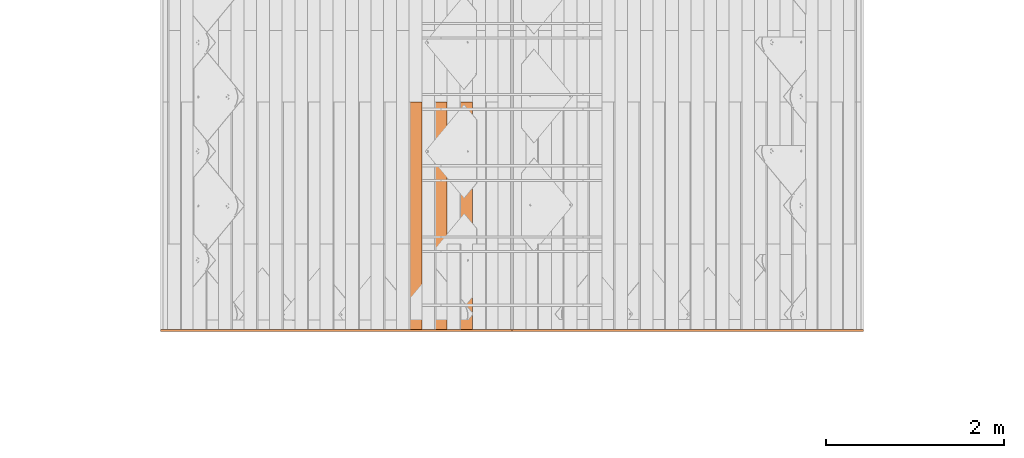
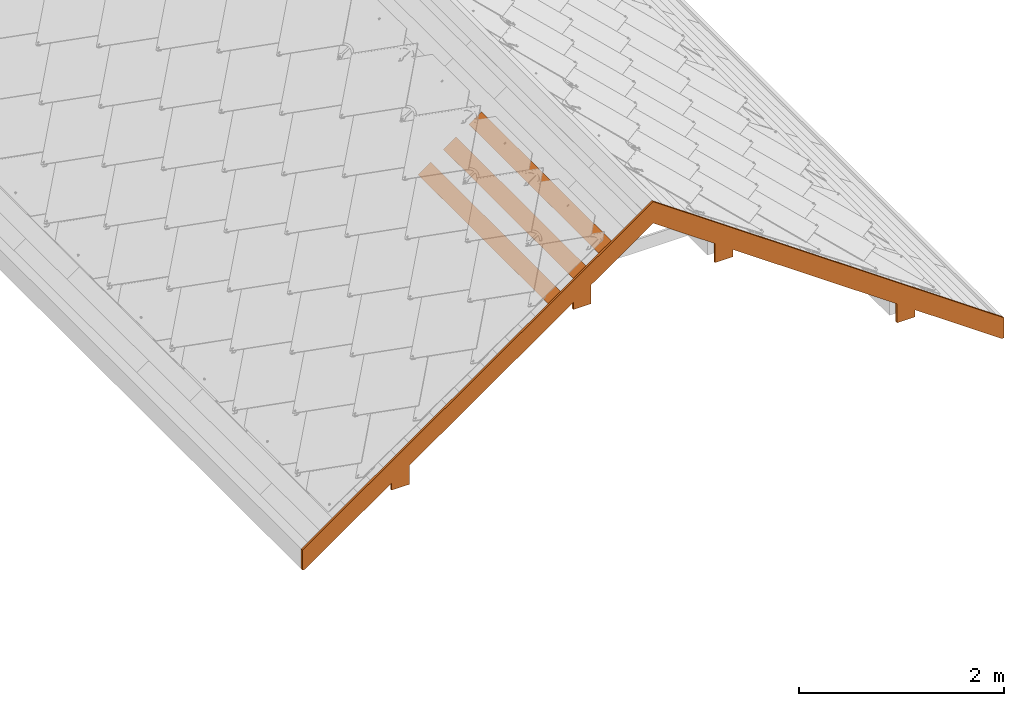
# One storey, part 14 of 151: 4 proxies, 1 element without a shape of its own.
"""IFC2X3 building model written with IfcOpenShell, lengths in millimetres."""

from ifc_helpers import new_model, entity, si_unit, converted_unit, derived_unit, direction, frame, frame_2d, origin, place, context, subcontext, project, spatial, polyline, rectangle, outline, extrude, source, transform, mapped, material, type_object, type_shapes, element, aggregate, save


model = new_model("IFC2X3")

# Units and contexts
model_context = context("Model", 3, precision=0.01, world=origin(), true_north=direction((6.12303176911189e-17, 1.0)))
body_context = subcontext(model_context, "Body", "Model", "MODEL_VIEW")
ifc_project = project(units=[si_unit("LENGTHUNIT", "METRE", prefix="MILLI"), si_unit("AREAUNIT", "SQUARE_METRE"), si_unit("VOLUMEUNIT", "CUBIC_METRE"), converted_unit("PLANEANGLEUNIT", "DEGREE", entity("IfcRatioMeasure", 0.0174532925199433), si_unit("PLANEANGLEUNIT", "RADIAN"), dimensions=[0, 0, 0, 0, 0, 0, 0]), si_unit("MASSUNIT", "GRAM", prefix="KILO"), derived_unit("MASSDENSITYUNIT", [(si_unit("MASSUNIT", "GRAM", prefix="KILO"), 1), (si_unit("LENGTHUNIT", "METRE"), -3)]), si_unit("TIMEUNIT", "SECOND"), si_unit("FREQUENCYUNIT", "HERTZ"), si_unit("THERMODYNAMICTEMPERATUREUNIT", "DEGREE_CELSIUS"), derived_unit("THERMALTRANSMITTANCEUNIT", [(si_unit("MASSUNIT", "GRAM", prefix="KILO"), 1), (si_unit("THERMODYNAMICTEMPERATUREUNIT", "KELVIN"), -1), (si_unit("TIMEUNIT", "SECOND"), -3)]), derived_unit("VOLUMETRICFLOWRATEUNIT", [(si_unit("LENGTHUNIT", "METRE"), 3), (si_unit("TIMEUNIT", "SECOND"), -1)]), si_unit("ELECTRICCURRENTUNIT", "AMPERE"), si_unit("ELECTRICVOLTAGEUNIT", "VOLT"), si_unit("POWERUNIT", "WATT"), si_unit("FORCEUNIT", "NEWTON", prefix="KILO"), si_unit("ILLUMINANCEUNIT", "LUX"), si_unit("LUMINOUSFLUXUNIT", "LUMEN"), si_unit("LUMINOUSINTENSITYUNIT", "CANDELA"), derived_unit("USERDEFINED", [(si_unit("MASSUNIT", "GRAM", prefix="KILO"), -1), (si_unit("LENGTHUNIT", "METRE"), -2), (si_unit("TIMEUNIT", "SECOND"), 3), (si_unit("LUMINOUSFLUXUNIT", "LUMEN"), 1)]), derived_unit("LINEARVELOCITYUNIT", [(si_unit("LENGTHUNIT", "METRE"), 1), (si_unit("TIMEUNIT", "SECOND"), -1)]), si_unit("PRESSUREUNIT", "PASCAL"), derived_unit("USERDEFINED", [(si_unit("LENGTHUNIT", "METRE"), -2), (si_unit("MASSUNIT", "GRAM", prefix="KILO"), 1), (si_unit("TIMEUNIT", "SECOND"), -2)])], contexts=[model_context])

# Site, building, storey
site_placement = place(None, origin())
site = spatial("IfcSite", under=ifc_project, at=site_placement, Name="Default", CompositionType="ELEMENT")
building_placement = place(site_placement, origin())
building = spatial("IfcBuilding", under=site, at=building_placement, CompositionType="ELEMENT")
storey_placement = place(building_placement, origin())
storey = spatial("IfcBuildingStorey", under=building, at=storey_placement, Name="Level 1", CompositionType="ELEMENT", Elevation=0.0)

# Assembly, proxies
assembly_placement = place(storey_placement, origin())
assembly = element("IfcElementAssembly", 1, at=assembly_placement, inside=storey, Name="Structural Framing Assembly:Roof Construction Assembly", ObjectType="Structural Framing Assembly:Roof Construction Assembly", AssemblyPlace="NOTDEFINED", PredefinedType="USERDEFINED")
ifc_material_1 = material(Name="Wood - Generic - Wood For Showcase")
building_element_proxy_type_1 = type_object("IfcBuildingElementProxyType", Name="Structural Framing 15", PredefinedType="NOTDEFINED", material=ifc_material_1)
shared_shape_1 = source(origin(), body_context, "Body", "SweptSolid", [
    extrude(rectangle(XDim=24.9999999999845, YDim=174.344679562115, at=frame_2d((-1.77635683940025e-13, -4.54747350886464e-13), x_axis=(0.0, 1.0))), frame((1128.20180147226, 1437.09519417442, 2760.23940055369), z_axis=(0.0, 1.0, 0.0), x_axis=(-0.819152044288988, 0.0, -0.573576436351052)), (0.0, 0.0, 1.0), 2558.4556079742),
])
type_shapes(building_element_proxy_type_1, [shared_shape_1])
proxy_1_placement = place(assembly_placement, frame((-370.956530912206, -8140.0, -300.0)))
proxy_1 = element("IfcBuildingElementProxy", 2, at=proxy_1_placement, type_object=building_element_proxy_type_1, material=ifc_material_1, Name="Structural Framing 33:Structural Framing 15", ObjectType="Structural Framing 33:Structural Framing 15", context=body_context, shape_type="MappedRepresentation", body=[
    mapped(shared_shape_1, transform((0.0, 0.0, 0.0), scale=1.0)),
])
building_element_proxy_type_2 = type_object("IfcBuildingElementProxyType", Name="Structural Framing 15", PredefinedType="NOTDEFINED", material=ifc_material_1)
shared_shape_2 = source(origin(), body_context, "Body", "SweptSolid", [
    extrude(rectangle(XDim=24.9999999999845, YDim=174.344679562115, at=frame_2d((-1.77635683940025e-13, -4.54747350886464e-13), x_axis=(0.0, 1.0))), frame((1128.20180147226, 1437.09519417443, 2760.23940055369), z_axis=(0.0, 1.0, 0.0), x_axis=(-0.819152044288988, 0.0, -0.573576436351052)), (0.0, 0.0, 1.0), 2558.4556079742),
])
type_shapes(building_element_proxy_type_2, [shared_shape_2])
proxy_2_placement = place(assembly_placement, frame((-656.586132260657, -8140.0, -500.0)))
proxy_2 = element("IfcBuildingElementProxy", 3, at=proxy_2_placement, type_object=building_element_proxy_type_2, material=ifc_material_1, Name="Structural Framing 43:Structural Framing 15", ObjectType="Structural Framing 43:Structural Framing 15", context=body_context, shape_type="MappedRepresentation", body=[
    mapped(shared_shape_2, transform((0.0, 0.0, 0.0), scale=1.0)),
])
building_element_proxy_type_3 = type_object("IfcBuildingElementProxyType", Name="Structural Framing 15", PredefinedType="NOTDEFINED", material=ifc_material_1)
shared_shape_3 = source(origin(), body_context, "Body", "SweptSolid", [
    extrude(rectangle(XDim=24.9999999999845, YDim=174.344679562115, at=frame_2d((-1.77635683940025e-13, -4.54747350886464e-13), x_axis=(0.0, 1.0))), frame((1128.20180147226, 1437.09519417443, 2760.23940055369), z_axis=(0.0, 1.0, 0.0), x_axis=(-0.819152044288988, 0.0, -0.573576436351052)), (0.0, 0.0, 1.0), 2558.4556079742),
])
type_shapes(building_element_proxy_type_3, [shared_shape_3])
proxy_3_placement = place(assembly_placement, frame((-942.215733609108, -8140.0, -700.0)))
proxy_3 = element("IfcBuildingElementProxy", 4, at=proxy_3_placement, type_object=building_element_proxy_type_3, material=ifc_material_1, Name="Structural Framing 53:Structural Framing 15", ObjectType="Structural Framing 53:Structural Framing 15", context=body_context, shape_type="MappedRepresentation", body=[
    mapped(shared_shape_3, transform((0.0, 0.0, 0.0), scale=1.0)),
])
ifc_material_2 = material(Name="Steel - Generic - Black Steel")
building_element_proxy_type_4 = type_object("IfcBuildingElementProxyType", Name="Structural Framing 323", PredefinedType="NOTDEFINED", material=ifc_material_2)
shared_shape_4 = source(origin(), body_context, "Body", "SweptSolid", [
    extrude(outline(polyline([(3925.79042238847, -1189.7826264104), (3950.79042238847, -1189.7826264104), (3950.79042238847, -950.929430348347), (0.0, 1815.44380529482), (-3950.79042238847, -950.929430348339), (-3950.79042238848, -1189.78262641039), (-3925.79042238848, -1189.78262641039), (-2945.79042238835, -503.579238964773), (-2945.79042238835, -589.575088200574), (-2745.79042238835, -589.575088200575), (-2745.79042238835, -363.537731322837), (-897.91031166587, 930.361851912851), (-897.910311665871, 844.366002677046), (-697.910311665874, 844.366002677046), (-697.910311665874, 1070.40335955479), (0.0, 1559.08542077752), (697.910311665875, 1070.40335955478), (697.910311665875, 844.366002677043), (897.910311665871, 844.366002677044), (897.910311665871, 930.361851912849), (2745.79042238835, -363.537731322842), (2745.79042238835, -589.57508820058), (2945.79042238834, -589.57508820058), (2945.79042238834, -503.57923896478), (3925.79042238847, -1189.7826264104)])), frame((1264.26677837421, -6727.90480582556, 1045.59064502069), z_axis=(0.0, 1.0, 0.0), x_axis=(-1.0, 0.0, 0.0)), (0.0, 0.0, 1.0), 24.9999999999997),
])
type_shapes(building_element_proxy_type_4, [shared_shape_4])
proxy_4_placement = place(assembly_placement, origin())
proxy_4 = element("IfcBuildingElementProxy", 5, at=proxy_4_placement, type_object=building_element_proxy_type_4, material=ifc_material_2, Name="Structural Framing 323:Structural Framing 323", ObjectType="Structural Framing 323:Structural Framing 323", context=body_context, shape_type="MappedRepresentation", body=[
    mapped(shared_shape_4, transform((0.0, 0.0, 0.0), scale=1.0)),
])
aggregate(assembly, [proxy_1, proxy_2, proxy_3, proxy_4])

save(model, "model.ifc")
